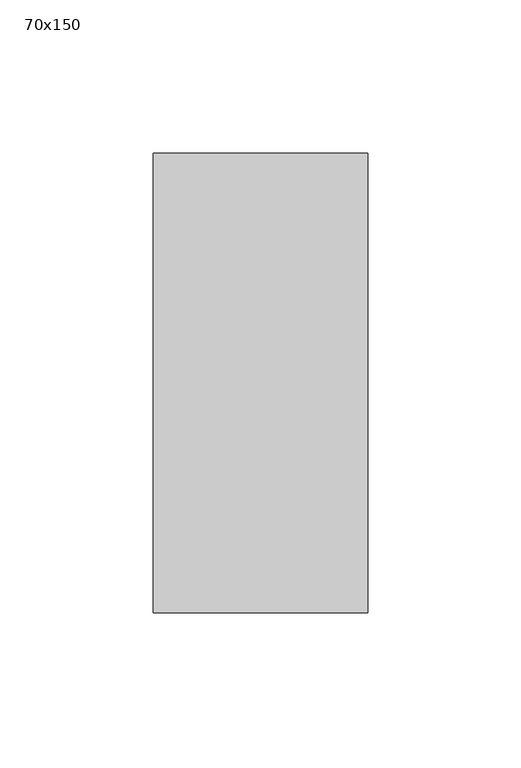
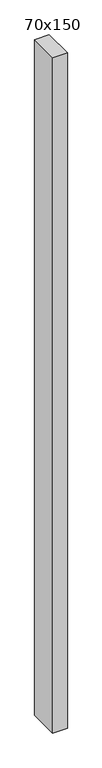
"""IFC4 building model written with IfcOpenShell, lengths in millimetres: member geometry, 長方形のマリオン : 70x150."""

from ifc_helpers import new_model, si_unit, frame, origin, place, context, project, spatial, polyline, outline, extrude, source, transform, mapped, element, save


def member_70x150_7418113c(model_context):
    return source(origin(), model_context, "Body", "SweptSolid", [
        extrude(outline(polyline([(35.0, 75.0), (35.0, -75.0), (-35.0, -75.0), (-35.0, 75.0), (35.0, 75.0)])), frame((0.0, 0.0, -3430.0), z_axis=(0.0, 0.0, 1.0), x_axis=(1.0, 0.0, 0.0)), (0.0, 0.0, 1.0), 3430.0),
    ])


if __name__ == "__main__":
    model = new_model("IFC4")
    model_context = context("Model", 3, world=origin())
    ifc_project = project(units=[si_unit("LENGTHUNIT", "METRE", prefix="MILLI")], contexts=[model_context])
    site = spatial("IfcSite", under=ifc_project)
    building = spatial("IfcBuilding", under=site)
    placement = place(None, origin())
    member_70x150_shape = member_70x150_7418113c(model_context)
    element("IfcMember", 1, ObjectType="長方形のマリオン : 70x150", at=placement, inside=building, context=model_context, shape_type="MappedRepresentation", body=[
        mapped(member_70x150_shape, transform((0.0, 0.0, 0.0), x_axis=(1.0, 0.0, 0.0), y_axis=(0.0, 1.0, 0.0), z_axis=(0.0, 0.0, 1.0))),
    ])
    save(model, "model.ifc")
